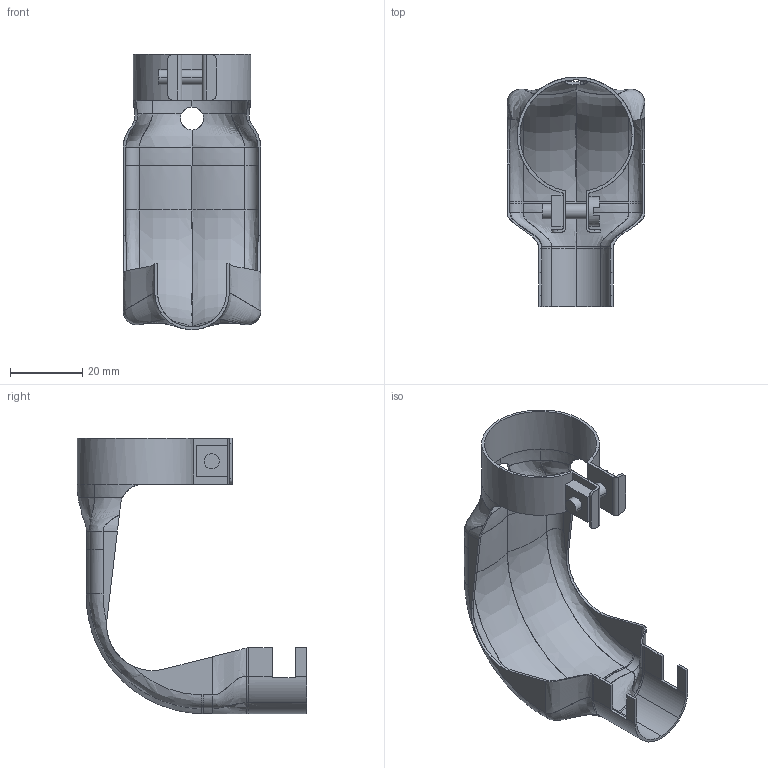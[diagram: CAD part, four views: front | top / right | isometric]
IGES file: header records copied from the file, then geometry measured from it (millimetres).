
Start section:  PTC IGES file: c-whds-24-2-99-3d.igs
Global section: file name: c-whds-24-2-99-3d.igs; native system: Creo Parametric by Parametric Technology Corporation; preprocessor: 2013050; author: workeradm; organization: Unknown; units: millimetre
Bounding box: 38.1 x 63.5 x 76.2 mm (x, y, z)
Surface area: 13989.6 mm2 (no closed solid volume)
Topology: 0 solids, 0 shells, 177 faces, 1204 edges, 1204 vertices
Faces by surface type: bspline 145, revolution 24, extrusion 8
